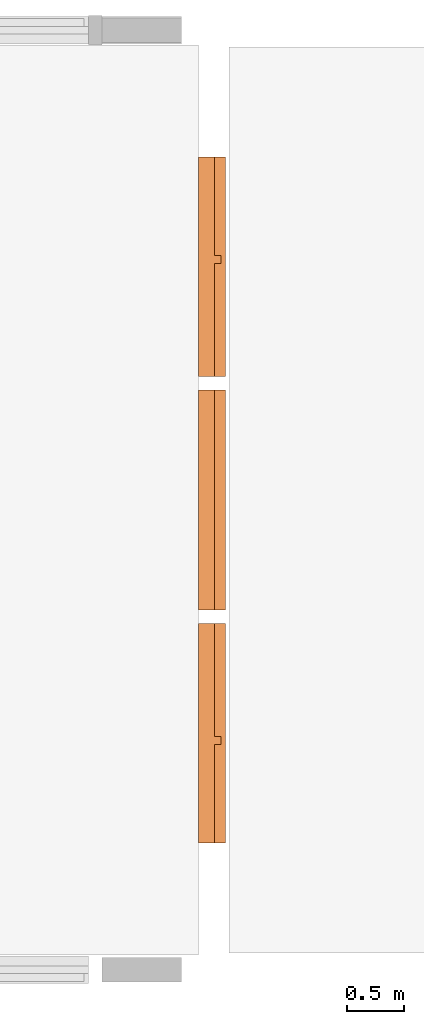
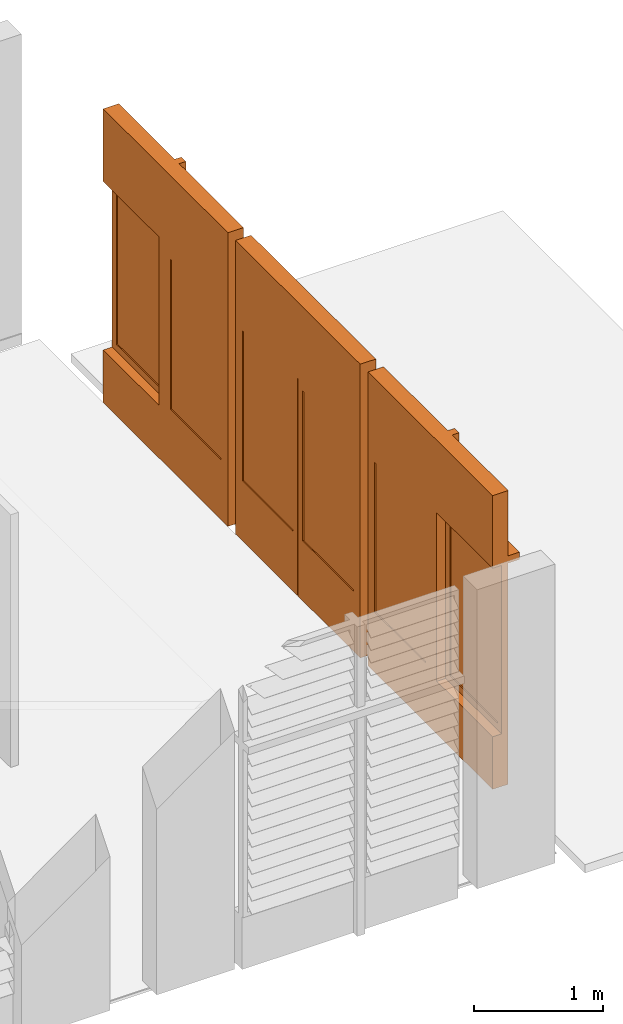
# One storey, part 15 of 15: 3 proxies.
"""IFC2X3 building model written with IfcOpenShell, lengths in metres."""

import ifcopenshell
import ifcopenshell.guid

model = None  # the IFC model being written
_history = None  # IfcOwnerHistory: only IFC2X3 demands one
_inside = {}  # id of a spatial element -> (the spatial element, [elements in it])
_under = {}  # id of a project, library or spatial element -> (it, [spatial elements below it])
_declared = {}  # id of a project -> (the project, [libraries it declares])
_typed = {}  # id of a type object -> (the type object, [elements of that type])
_made_of = {}  # id of a material, layer set ... -> (it, [elements and type objects made of it])


def new_model(schema):
    """Start an empty IFC model of exactly this schema.

    Asked for "IFC4X3", IfcOpenShell would pick the latest addendum, in which some entities
    have other attributes; the version numbers below select the first issue.
    IFC2X3 requires an IfcOwnerHistory on every rooted entity: one is made here for all.
    """
    global model, _history
    if schema == "IFC4X3":
        model = ifcopenshell.file(schema_version=(4, 3, 0, 0))
    else:
        model = ifcopenshell.file(schema=schema)
    _inside.clear()
    _under.clear()
    _declared.clear()
    _typed.clear()
    _made_of.clear()
    _history = None
    if model.schema == "IFC2X3":
        org = make("IfcOrganization", Name="unknown")
        user = make(
            "IfcPersonAndOrganization",
            ThePerson=make("IfcPerson", FamilyName="unknown"),
            TheOrganization=org,
        )
        app = make(
            "IfcApplication",
            ApplicationDeveloper=org,
            Version="unknown",
            ApplicationFullName="unknown",
            ApplicationIdentifier="unknown",
        )
        _history = make(
            "IfcOwnerHistory",
            OwningUser=user,
            OwningApplication=app,
            ChangeAction="ADDED",
            CreationDate=0,
        )
    return model


def make(cls, **values):
    """One entity of the class cls with the attributes given. An attribute that is None is left unset."""
    return model.create_entity(
        cls, **{name: value for name, value in values.items() if value is not None}
    )


def entity(cls, *values):
    """Any entity or typed value of the class cls, its attributes in the order of the schema. None: left unset."""
    e = model.create_entity(cls)
    for i, value in enumerate(values):
        if value is not None:
            e[i] = value
    return e


def rooted(cls, **values):
    """An entity with a GlobalId (a new one), such as an element, a storey or a relation."""
    return make(cls, GlobalId=ifcopenshell.guid.new(), OwnerHistory=_history, **values)


def si_unit(unit_type, name, prefix=None):
    """IfcSIUnit, for example si_unit("LENGTHUNIT", "METRE", prefix="MILLI")."""
    return make("IfcSIUnit", UnitType=unit_type, Prefix=prefix, Name=name)


def converted_unit(unit_type, name, factor, base, dimensions=None, offset=None):
    """IfcConversionBasedUnit, such as the inch: factor (a typed value) times the base unit."""
    return make(
        "IfcConversionBasedUnit"
        if offset is None
        else "IfcConversionBasedUnitWithOffset",
        ConversionOffset=offset,
        Dimensions=None
        if dimensions is None
        else entity("IfcDimensionalExponents", *dimensions),
        UnitType=unit_type,
        Name=name,
        ConversionFactor=make(
            "IfcMeasureWithUnit", ValueComponent=factor, UnitComponent=base
        ),
    )


def derived_unit(unit_type, elements):
    """IfcDerivedUnit: a product of units, each with its exponent."""
    return make(
        "IfcDerivedUnit",
        Elements=[
            make("IfcDerivedUnitElement", Unit=unit, Exponent=power)
            for unit, power in elements
        ],
        UnitType=unit_type,
    )


def assignment(units):
    """IfcUnitAssignment: the units of a project."""
    return None if units is None else make("IfcUnitAssignment", Units=units)


def point(xyz):
    """IfcCartesianPoint."""
    return None if xyz is None else make("IfcCartesianPoint", Coordinates=xyz)


def direction(xyz):
    """IfcDirection."""
    return None if xyz is None else make("IfcDirection", DirectionRatios=xyz)


def frame(location, z_axis=None, x_axis=None):
    """IfcAxis2Placement3D, a coordinate frame: its origin and axes. An axis left out is left unset."""
    return make(
        "IfcAxis2Placement3D",
        Location=point(location),
        Axis=direction(z_axis),
        RefDirection=direction(x_axis),
    )


def origin():
    """The frame at (0, 0, 0) with its axes left unset."""
    return frame((0.0, 0.0, 0.0))


def place(relative_to, where):
    """IfcLocalPlacement: puts the frame where relative to a parent placement (None: the world)."""
    return make(
        "IfcLocalPlacement", PlacementRelTo=relative_to, RelativePlacement=where
    )


def context(
    kind, dimensions, precision=None, world=None, true_north=None, identifier=None
):
    """IfcGeometricRepresentationContext, for example the 3D "Model" context."""
    return make(
        "IfcGeometricRepresentationContext",
        ContextIdentifier=identifier,
        ContextType=kind,
        CoordinateSpaceDimension=dimensions,
        Precision=precision,
        WorldCoordinateSystem=world,
        TrueNorth=true_north,
    )


def subcontext(parent, identifier, kind, view, scale=None):
    """IfcGeometricRepresentationSubContext, for example "Body" below "Model"."""
    return make(
        "IfcGeometricRepresentationSubContext",
        ContextIdentifier=identifier,
        ContextType=kind,
        ParentContext=parent,
        TargetScale=scale,
        TargetView=view,
    )


def project(units=None, contexts=None):
    """IfcProject with its units and contexts."""
    return rooted(
        "IfcProject",
        Name="project",
        RepresentationContexts=contexts,
        UnitsInContext=assignment(units),
    )


def spatial(cls, under=None, at=None, **own):
    """A site, building, storey or space (cls), placed at a placement, below another one or the project."""
    s = rooted(cls, ObjectPlacement=at, **own)
    if under is not None:
        _under.setdefault(under.id(), (under, []))[1].append(s)
    return s


def faces_of(points, faces, orient=None, outer=None):
    """IfcFace entities. A face is a list of loops; a loop is a list of indices into points, from 0.

    orient and outer hold one flag for each loop. By default every Orientation is true, the
    first loop of a face is its IfcFaceOuterBound and the others are IfcFaceBound.
    """
    made = []
    for i, loops in enumerate(faces):
        bounds = []
        for j, loop in enumerate(loops):
            is_outer = j == 0 if outer is None else outer[i][j]
            bounds.append(
                make(
                    "IfcFaceOuterBound" if is_outer else "IfcFaceBound",
                    Bound=make("IfcPolyLoop", Polygon=[points[k] for k in loop]),
                    Orientation=True if orient is None else orient[i][j],
                )
            )
        made.append(make("IfcFace", Bounds=bounds))
    return made


def faceted_brep(points, faces, orient=None, outer=None, voids=None):
    """IfcFacetedBrep: a solid bounded by flat faces; with voids (closed shells), ...WithVoids."""
    shared = [point(p) for p in points]
    hull = make("IfcClosedShell", CfsFaces=faces_of(shared, faces, orient, outer))
    if voids is None:
        return make("IfcFacetedBrep", Outer=hull)
    return make(
        "IfcFacetedBrepWithVoids",
        Outer=hull,
        Voids=[
            make(cls, CfsFaces=faces_of(shared, fs, o, b)) for cls, fs, o, b in voids
        ],
    )


def shape(context_of_items, identifier, shape_type, items):
    """IfcShapeRepresentation: the items that make up one representation, for example the "Body"."""
    return make(
        "IfcShapeRepresentation",
        ContextOfItems=context_of_items,
        RepresentationIdentifier=identifier,
        RepresentationType=shape_type,
        Items=items,
    )


def source(mapping_origin, context_of_items, identifier, shape_type, items):
    """IfcRepresentationMap: a shape defined once, which mapped items show again and again."""
    return make(
        "IfcRepresentationMap",
        MappingOrigin=mapping_origin,
        MappedRepresentation=shape(context_of_items, identifier, shape_type, items),
    )


def transform(
    local_origin,
    x_axis=None,
    y_axis=None,
    z_axis=None,
    scale=None,
    scale2=None,
    scale3=None,
    uniform=True,
):
    """IfcCartesianTransformationOperator3D, or its non-uniform kind. x_axis, y_axis, z_axis: its Axis1, 2, 3."""
    if uniform:
        return make(
            "IfcCartesianTransformationOperator3D",
            Axis1=direction(x_axis),
            Axis2=direction(y_axis),
            LocalOrigin=point(local_origin),
            Scale=scale,
            Axis3=direction(z_axis),
        )
    return make(
        "IfcCartesianTransformationOperator3DnonUniform",
        Axis1=direction(x_axis),
        Axis2=direction(y_axis),
        LocalOrigin=point(local_origin),
        Scale=scale,
        Axis3=direction(z_axis),
        Scale2=scale2,
        Scale3=scale3,
    )


def mapped(mapping_source, mapping_target):
    """IfcMappedItem: shows the shape of a source again, moved by a transform."""
    return make(
        "IfcMappedItem", MappingSource=mapping_source, MappingTarget=mapping_target
    )


def material(Name=None, Category=None):
    """IfcMaterial."""
    return make("IfcMaterial", Name=Name, Category=Category)


def material_list(materials):
    """IfcMaterialList."""
    return make("IfcMaterialList", Materials=materials)


def made_of(thing, what):
    """Note that an element or type object is made of a material, layer set ...; save() writes the relation."""
    if what is not None:
        _made_of.setdefault(what.id(), (what, []))[1].append(thing)
    return thing


def type_object(cls, material=None, **own):
    """A type object (cls), such as IfcWallType, which elements share."""
    return made_of(rooted(cls, **own), material)


def type_shapes(of_type, sources):
    """Give a type object the sources (RepresentationMaps) that its elements show as mapped items."""
    of_type.RepresentationMaps = sources


def element(
    cls,
    number,
    at=None,
    inside=None,
    cuts=None,
    type_object=None,
    material=None,
    context=None,
    identifier="Body",
    shape_type=None,
    held_by="IfcProductDefinitionShape",
    body=None,
    shapes=None,
    **own,
):
    """One element of the class cls, such as IfcWall. Its Tag is "e" and its number.

    at: its placement. inside: the storey or other place that contains it. cuts: it is an
    opening in that element (IfcRelVoidsElement). A single representation is given by context,
    identifier, shape_type and body (its items); several are given by shapes. held_by: the class
    of the entity that holds the representations. save() writes the other relations.
    """
    e = rooted(cls, Tag="e%d" % number, ObjectPlacement=at, **own)
    if body is not None:
        shapes = [shape(context, identifier, shape_type, body)]
    if shapes is not None:
        e.Representation = make(held_by, Representations=shapes)
    if inside is not None:
        _inside.setdefault(inside.id(), (inside, []))[1].append(e)
    if cuts is not None:
        rooted(
            "IfcRelVoidsElement", RelatingBuildingElement=cuts, RelatedOpeningElement=e
        )
    if type_object is not None:
        _typed.setdefault(type_object.id(), (type_object, []))[1].append(e)
    return made_of(e, material)


def aggregate(whole, parts):
    """IfcRelAggregates: a whole, such as a stair, and the parts it consists of."""
    return rooted("IfcRelAggregates", RelatingObject=whole, RelatedObjects=parts)


def save(model, path):
    """Write the relations noted so far, then the file.

    IfcRelAggregates (storeys below a building ...), IfcRelContainedInSpatialStructure (elements
    in a storey), IfcRelDefinesByType, IfcRelAssociatesMaterial and IfcRelDeclares: one each for
    every whole, place, type object, material and project.
    """
    for whole, parts in _under.values():
        aggregate(whole, parts)
    for where, things in _inside.values():
        rooted(
            "IfcRelContainedInSpatialStructure",
            RelatedElements=things,
            RelatingStructure=where,
        )
    for kind, things in _typed.values():
        rooted("IfcRelDefinesByType", RelatedObjects=things, RelatingType=kind)
    for what, things in _made_of.values():
        rooted("IfcRelAssociatesMaterial", RelatedObjects=things, RelatingMaterial=what)
    for by, libraries in _declared.values():
        rooted("IfcRelDeclares", RelatingContext=by, RelatedDefinitions=libraries)
    model.write(path)


model = new_model("IFC2X3")

# Units and contexts
model_context = context("Model", 3, precision=1e-05, world=origin(), true_north=direction((6.12303176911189e-17, 1.0)))
body_context = subcontext(model_context, "Body", "Model", "MODEL_VIEW")
ifc_project = project(units=[si_unit("LENGTHUNIT", "METRE"), si_unit("AREAUNIT", "SQUARE_METRE"), si_unit("VOLUMEUNIT", "CUBIC_METRE"), converted_unit("PLANEANGLEUNIT", "DEGREE", entity("IfcRatioMeasure", 0.0174532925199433), si_unit("PLANEANGLEUNIT", "RADIAN"), dimensions=[0, 0, 0, 0, 0, 0, 0]), si_unit("MASSUNIT", "GRAM", prefix="KILO"), derived_unit("MASSDENSITYUNIT", [(si_unit("MASSUNIT", "GRAM", prefix="KILO"), 1), (si_unit("LENGTHUNIT", "METRE"), -3)]), si_unit("TIMEUNIT", "SECOND"), si_unit("FREQUENCYUNIT", "HERTZ"), si_unit("THERMODYNAMICTEMPERATUREUNIT", "DEGREE_CELSIUS"), derived_unit("THERMALTRANSMITTANCEUNIT", [(si_unit("MASSUNIT", "GRAM", prefix="KILO"), 1), (si_unit("THERMODYNAMICTEMPERATUREUNIT", "KELVIN"), -1), (si_unit("TIMEUNIT", "SECOND"), -3)]), derived_unit("VOLUMETRICFLOWRATEUNIT", [(si_unit("LENGTHUNIT", "METRE"), 3), (si_unit("TIMEUNIT", "SECOND"), -1)]), si_unit("ELECTRICCURRENTUNIT", "AMPERE"), si_unit("ELECTRICVOLTAGEUNIT", "VOLT"), si_unit("POWERUNIT", "WATT"), si_unit("FORCEUNIT", "NEWTON", prefix="KILO"), si_unit("ILLUMINANCEUNIT", "LUX"), si_unit("LUMINOUSFLUXUNIT", "LUMEN"), si_unit("LUMINOUSINTENSITYUNIT", "CANDELA"), derived_unit("USERDEFINED", [(si_unit("MASSUNIT", "GRAM", prefix="KILO"), -1), (si_unit("LENGTHUNIT", "METRE"), -2), (si_unit("TIMEUNIT", "SECOND"), 3), (si_unit("LUMINOUSFLUXUNIT", "LUMEN"), 1)]), derived_unit("LINEARVELOCITYUNIT", [(si_unit("LENGTHUNIT", "METRE"), 1), (si_unit("TIMEUNIT", "SECOND"), -1)]), si_unit("PRESSUREUNIT", "PASCAL"), derived_unit("USERDEFINED", [(si_unit("LENGTHUNIT", "METRE"), -2), (si_unit("MASSUNIT", "GRAM", prefix="KILO"), 1), (si_unit("TIMEUNIT", "SECOND"), -2)])], contexts=[model_context])

# Site, building, storey
site_placement = place(None, origin())
site = spatial("IfcSite", under=ifc_project, at=site_placement, Name="Surface", CompositionType="ELEMENT")
building_placement = place(site_placement, origin())
building = spatial("IfcBuilding", under=site, at=building_placement, Name="ExPREF", CompositionType="ELEMENT")
storey_placement = place(building_placement, frame((0.0, 0.0, 7.83)))
storey = spatial("IfcBuildingStorey", under=building, at=storey_placement, Name="R+2", CompositionType="ELEMENT", Elevation=7.83)

# Proxies
ifc_material_1 = material(Name="AA-vitrage")
ifc_material_2 = material(Name="AA-bois menuiseries")
ifc_material_list_1 = material_list([ifc_material_1, ifc_material_2])
ifc_material_list_2 = material_list([ifc_material_1, ifc_material_2])
building_element_proxy_type_1 = type_object("IfcBuildingElementProxyType", Name="R+2 porte + fenetre préfet symétrie", PredefinedType="NOTDEFINED", material=ifc_material_list_2)
shared_shape_1 = source(origin(), body_context, "Body", "Brep", [
    faceted_brep([(0.0750000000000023, -0.0299999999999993, 1.995), (0.0750000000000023, -0.0299999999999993, 0.569999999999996), (0.864999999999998, -0.0299999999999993, 0.569999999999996), (0.864999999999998, -0.0299999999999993, 1.995), (0.0750000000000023, -0.0100000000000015, 1.995), (0.864999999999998, -0.0100000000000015, 1.995), (0.864999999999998, -0.0100000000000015, 0.569999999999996), (0.0750000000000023, -0.0100000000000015, 0.569999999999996)], [[[0, 1, 2, 3]], [[4, 5, 6, 7]], [[0, 3, 5, 4]], [[3, 2, 6, 5]], [[2, 1, 7, 6]], [[1, 0, 4, 7]]]),
    faceted_brep([(0.00500000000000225, -0.0400000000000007, 2.065), (0.00500000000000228, -0.0400000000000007, 0.0), (0.934999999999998, -0.0400000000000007, 0.0), (0.934999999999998, -0.0400000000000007, 2.065), (0.864999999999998, -0.0400000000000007, 0.569999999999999), (0.0750000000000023, -0.0400000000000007, 0.569999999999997), (0.0750000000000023, -0.0400000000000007, 1.995), (0.864999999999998, -0.0400000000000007, 1.995), (0.00500000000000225, 0.0, 2.065), (0.934999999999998, 0.0, 2.065), (0.934999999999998, 0.0, 0.0), (0.00500000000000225, 0.0, 0.0), (0.864999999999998, 0.0, 0.569999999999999), (0.864999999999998, 0.0, 1.995), (0.0750000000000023, 0.0, 1.995), (0.0750000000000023, 0.0, 0.569999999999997)], [[[0, 1, 2, 3], [4, 5, 6, 7]], [[8, 9, 10, 11], [12, 13, 14, 15]], [[0, 3, 9, 8]], [[3, 2, 10, 9]], [[2, 1, 11, 10]], [[1, 0, 8, 11]], [[4, 7, 13, 12]], [[7, 6, 14, 13]], [[6, 5, 15, 14]], [[5, 4, 12, 15]]]),
    faceted_brep([(-0.0299999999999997, -0.140000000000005, 2.17), (0.97, -0.140000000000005, 2.17), (0.97, -0.140000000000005, 2.79000000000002), (-0.0299999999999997, -0.140000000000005, 2.79000000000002), (-0.0299999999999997, 0.0, 2.17), (-0.0299999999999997, 0.0, 2.79000000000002), (0.97, 0.0, 2.79000000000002), (0.97, 0.0, 2.17)], [[[0, 1, 2, 3]], [[4, 5, 6, 7]], [[0, 3, 5, 4]], [[3, 2, 6, 5]], [[2, 1, 7, 6]], [[1, 0, 4, 7]]]),
    faceted_brep([(-0.970000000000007, -0.140000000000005, 2.16999999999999), (-0.1, -0.140000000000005, 2.16999999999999), (-0.1, -0.140000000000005, 2.79000000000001), (-0.970000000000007, -0.140000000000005, 2.79000000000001), (-0.970000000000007, 0.0, 2.16999999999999), (-0.970000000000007, 0.0, 2.79000000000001), (-0.1, 0.0, 2.79000000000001), (-0.1, 0.0, 2.16999999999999)], [[[0, 1, 2, 3]], [[4, 5, 6, 7]], [[0, 3, 5, 4]], [[3, 2, 6, 5]], [[2, 1, 7, 6]], [[1, 0, 4, 7]]]),
    faceted_brep([(-0.904999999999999, -0.0900000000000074, 2.03499999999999), (-0.164999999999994, -0.0900000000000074, 2.03499999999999), (-0.164999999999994, -0.0900000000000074, 0.564999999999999), (-0.904999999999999, -0.0900000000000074, 0.564999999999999), (-0.904999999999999, -0.110000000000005, 2.03499999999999), (-0.904999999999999, -0.110000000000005, 0.564999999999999), (-0.164999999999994, -0.110000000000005, 0.564999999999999), (-0.164999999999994, -0.110000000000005, 2.03499999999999)], [[[0, 1, 2, 3]], [[4, 5, 6, 7]], [[1, 0, 4, 7]], [[2, 1, 7, 6]], [[3, 2, 6, 5]], [[0, 3, 5, 4]]]),
    faceted_brep([(-0.934999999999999, -0.120000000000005, 2.065), (-0.934999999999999, -0.0800000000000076, 2.065), (-0.934999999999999, -0.0800000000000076, 0.534999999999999), (-0.934999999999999, -0.120000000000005, 0.534999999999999), (-0.904999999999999, -0.0800000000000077, 2.03499999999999), (-0.904999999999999, -0.120000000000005, 2.035), (-0.904999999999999, -0.120000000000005, 0.564999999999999), (-0.904999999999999, -0.0800000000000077, 0.564999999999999), (-0.134999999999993, -0.0800000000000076, 0.534999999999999), (-0.134999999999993, -0.120000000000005, 0.534999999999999), (-0.164999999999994, -0.120000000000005, 0.564999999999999), (-0.164999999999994, -0.0800000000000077, 0.564999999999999), (-0.134999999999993, -0.0800000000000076, 2.065), (-0.134999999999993, -0.120000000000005, 2.065), (-0.164999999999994, -0.120000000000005, 2.035), (-0.164999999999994, -0.0800000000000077, 2.03499999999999)], [[[0, 1, 2, 3]], [[4, 5, 6, 7]], [[3, 2, 8, 9]], [[7, 6, 10, 11]], [[9, 8, 12, 13]], [[11, 10, 14, 15]], [[3, 9, 13, 0], [5, 14, 10, 6]], [[13, 12, 1, 0]], [[7, 11, 15, 4], [1, 12, 8, 2]], [[15, 14, 5, 4]]], outer=[[True], [True], [True], [True], [True], [True], [True, False], [True], [False, True], [True]]),
    faceted_brep([(-0.969999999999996, -0.0800000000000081, 0.500000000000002), (-0.969999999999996, -0.140000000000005, 0.500000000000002), (-0.969999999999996, -0.140000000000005, 2.09999999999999), (-0.969999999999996, -0.0800000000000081, 2.09999999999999), (-0.919999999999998, -0.140000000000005, 0.549999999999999), (-0.919999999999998, -0.120000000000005, 0.549999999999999), (-0.919999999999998, -0.120000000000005, 2.05), (-0.919999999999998, -0.140000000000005, 2.04999999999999), (-0.934999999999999, -0.120000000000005, 0.534999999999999), (-0.934999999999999, -0.0800000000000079, 0.534999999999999), (-0.934999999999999, -0.0800000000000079, 2.065), (-0.934999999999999, -0.120000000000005, 2.065), (-0.099999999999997, -0.140000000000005, 2.09999999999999), (-0.0999999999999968, -0.0800000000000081, 2.09999999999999), (-0.149999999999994, -0.120000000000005, 2.05), (-0.149999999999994, -0.140000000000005, 2.04999999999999), (-0.134999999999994, -0.0800000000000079, 2.065), (-0.134999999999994, -0.120000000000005, 2.065), (-0.0999999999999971, -0.140000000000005, 0.500000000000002), (-0.0999999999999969, -0.0800000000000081, 0.500000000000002), (-0.149999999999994, -0.120000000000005, 0.549999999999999), (-0.149999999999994, -0.140000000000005, 0.549999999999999), (-0.134999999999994, -0.0800000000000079, 0.534999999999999), (-0.134999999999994, -0.120000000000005, 0.534999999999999)], [[[0, 1, 2, 3]], [[4, 5, 6, 7]], [[8, 9, 10, 11]], [[3, 2, 12, 13]], [[7, 6, 14, 15]], [[11, 10, 16, 17]], [[13, 12, 18, 19]], [[15, 14, 20, 21]], [[17, 16, 22, 23]], [[3, 13, 19, 0], [9, 22, 16, 10]], [[19, 18, 1, 0]], [[7, 15, 21, 4], [1, 18, 12, 2]], [[21, 20, 5, 4]], [[11, 17, 23, 8], [5, 20, 14, 6]], [[23, 22, 9, 8]]], outer=[[True], [True], [True], [True], [True], [True], [True], [True], [True], [True, False], [True], [False, True], [True], [True, False], [True]]),
    faceted_brep([(-0.0999999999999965, -0.2, 2.79000000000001), (-0.0999999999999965, -0.2, 2.17), (-0.0299999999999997, -0.2, 2.17), (-0.0299999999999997, -0.2, 2.79000000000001), (-0.0299999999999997, 0.0, 2.79000000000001), (-0.0999999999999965, 0.0, 2.79000000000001), (-0.0999999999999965, 0.0, 2.17), (-0.0299999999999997, 0.0, 2.17)], [[[0, 1, 2, 3]], [[0, 3, 4, 5]], [[1, 0, 5, 6]], [[3, 2, 7, 4]], [[2, 1, 6, 7]], [[5, 4, 7, 6]]]),
    faceted_brep([(-0.0299999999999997, 0.0, 2.1), (-0.0299999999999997, 0.0, 0.0), (-0.0999999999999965, 0.0, 0.0), (-0.0999999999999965, 0.0, 2.1), (-0.0299999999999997, -0.2, 2.1), (-0.0299999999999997, -0.2, 0.0), (-0.0999999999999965, -0.2, 0.0), (-0.0999999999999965, -0.2, 2.1)], [[[0, 1, 2, 3]], [[4, 5, 1, 0]], [[5, 6, 2, 1]], [[6, 7, 3, 2]], [[7, 4, 0, 3]], [[4, 7, 6, 5]]]),
    faceted_brep([(0.970000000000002, -0.14, 0.0), (0.920000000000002, -0.14, 0.0), (0.920000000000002, -0.0400000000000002, 0.0), (0.935000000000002, -0.0400000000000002, 0.0), (0.935000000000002, 0.0, 0.0), (0.970000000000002, 0.0, 0.0), (0.969999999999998, 0.0, 2.1), (0.969999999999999, -0.14, 2.1), (0.934999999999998, 0.0, 2.065), (0.004999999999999, 0.0, 2.065), (0.00500000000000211, 0.0, 0.0), (-0.0299999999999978, 0.0, 0.0), (-0.0300000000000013, 0.0, 2.1), (0.934999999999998, -0.0400000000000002, 2.065), (-0.0300000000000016, -0.140000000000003, 2.1), (-0.0299999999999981, -0.140000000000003, 0.0), (0.0200000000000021, -0.140000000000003, 0.0), (0.0199999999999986, -0.14, 2.05), (0.919999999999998, -0.14, 2.05), (0.004999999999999, -0.0400000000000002, 2.065), (0.00500000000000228, -0.0400000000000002, 0.0), (0.0200000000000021, -0.0400000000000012, 0.0), (0.919999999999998, -0.0400000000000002, 2.05), (0.0199999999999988, -0.0400000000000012, 2.05)], [[[0, 1, 2, 3, 4, 5]], [[0, 5, 6, 7]], [[5, 4, 8, 9, 10, 11, 12, 6]], [[4, 3, 13, 8]], [[1, 0, 7, 14, 15, 16, 17, 18]], [[7, 6, 12, 14]], [[8, 13, 19, 9]], [[15, 11, 10, 20, 21, 16]], [[3, 2, 22, 23, 21, 20, 19, 13]], [[2, 1, 18, 22]], [[22, 18, 17, 23]], [[14, 12, 11, 15]], [[9, 19, 20, 10]], [[23, 17, 16, 21]]]),
    faceted_brep([(-0.970000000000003, -0.140000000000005, 0.0), (-0.0999999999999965, -0.140000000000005, 0.0), (-0.0999999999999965, -0.140000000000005, 0.500000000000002), (-0.970000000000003, -0.140000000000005, 0.500000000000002), (-0.970000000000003, 0.0, 0.0), (-0.970000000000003, 0.0, 0.500000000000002), (-0.0999999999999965, 0.0, 0.500000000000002), (-0.0999999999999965, 0.0, 0.0)], [[[0, 1, 2, 3]], [[4, 5, 6, 7]], [[0, 3, 5, 4]], [[3, 2, 6, 5]], [[2, 1, 7, 6]], [[1, 0, 4, 7]]]),
    faceted_brep([(-0.97, -0.24, 2.09999999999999), (0.97, -0.24, 2.1), (0.97, -0.24, 2.17), (-0.970000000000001, -0.24, 2.16999999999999), (-0.97, 0.0, 2.09999999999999), (-0.97, 0.0, 2.16999999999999), (0.97, 0.0, 2.17), (0.97, 0.0, 2.1)], [[[0, 1, 2, 3]], [[4, 5, 6, 7]], [[0, 3, 5, 4]], [[2, 1, 7, 6]], [[1, 0, 4, 7]], [[3, 2, 6, 5]]]),
])
type_shapes(building_element_proxy_type_1, [shared_shape_1])
proxy_1_placement = place(storey_placement, frame((65.429743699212, -191.268069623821, 0.0), z_axis=(0.0, 0.0, 1.0), x_axis=(0.0, 1.0, 0.0)))
element("IfcBuildingElementProxy", 1, at=proxy_1_placement, inside=storey, type_object=building_element_proxy_type_1, material=ifc_material_list_1, Name="R+2 porte + fenetre préfet symétrie:R+2 porte + fenetre préfet symétrie", ObjectType="R+2 porte + fenetre préfet symétrie", context=body_context, shape_type="MappedRepresentation", body=[
    mapped(shared_shape_1, transform((0.0, 0.0, 0.0), scale=1.0)),
])
ifc_material_list_3 = material_list([ifc_material_1, ifc_material_2])
ifc_material_list_4 = material_list([ifc_material_1, ifc_material_2])
building_element_proxy_type_2 = type_object("IfcBuildingElementProxyType", Name="R+2 porte + fenetre préfet", PredefinedType="NOTDEFINED", material=ifc_material_list_4)
shared_shape_2 = source(origin(), body_context, "Body", "Brep", [
    faceted_brep([(-0.0750000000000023, -0.0299999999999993, 1.995), (-0.864999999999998, -0.0299999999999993, 1.995), (-0.864999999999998, -0.0299999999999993, 0.569999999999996), (-0.0750000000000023, -0.0299999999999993, 0.569999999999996), (-0.0750000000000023, -0.0100000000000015, 1.995), (-0.0750000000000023, -0.0100000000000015, 0.569999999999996), (-0.864999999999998, -0.0100000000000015, 0.569999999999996), (-0.864999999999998, -0.0100000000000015, 1.995)], [[[0, 1, 2, 3]], [[4, 5, 6, 7]], [[1, 0, 4, 7]], [[2, 1, 7, 6]], [[3, 2, 6, 5]], [[0, 3, 5, 4]]]),
    faceted_brep([(-0.00500000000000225, -0.0400000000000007, 2.065), (-0.934999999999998, -0.0400000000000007, 2.065), (-0.934999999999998, -0.0400000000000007, 0.0), (-0.00500000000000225, -0.0400000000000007, 0.0), (-0.864999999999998, -0.0400000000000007, 0.569999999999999), (-0.864999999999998, -0.0400000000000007, 1.995), (-0.0750000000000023, -0.0400000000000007, 1.995), (-0.0750000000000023, -0.0400000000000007, 0.569999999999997), (-0.00500000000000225, 0.0, 2.065), (-0.00500000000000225, 0.0, 0.0), (-0.934999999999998, 0.0, 0.0), (-0.934999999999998, 0.0, 2.065), (-0.864999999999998, 0.0, 0.569999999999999), (-0.0750000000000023, 0.0, 0.569999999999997), (-0.0750000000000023, 0.0, 1.995), (-0.864999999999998, 0.0, 1.995)], [[[0, 1, 2, 3], [4, 5, 6, 7]], [[8, 9, 10, 11], [12, 13, 14, 15]], [[1, 0, 8, 11]], [[2, 1, 11, 10]], [[3, 2, 10, 9]], [[0, 3, 9, 8]], [[5, 4, 12, 15]], [[6, 5, 15, 14]], [[7, 6, 14, 13]], [[4, 7, 13, 12]]]),
    faceted_brep([(0.0299999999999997, -0.140000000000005, 2.17), (0.0299999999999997, -0.140000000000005, 2.79000000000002), (-0.97, -0.140000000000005, 2.79000000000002), (-0.97, -0.140000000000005, 2.17), (0.0299999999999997, 0.0, 2.17), (-0.97, 0.0, 2.17), (-0.97, 0.0, 2.79000000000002), (0.0299999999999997, 0.0, 2.79000000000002)], [[[0, 1, 2, 3]], [[4, 5, 6, 7]], [[1, 0, 4, 7]], [[2, 1, 7, 6]], [[3, 2, 6, 5]], [[0, 3, 5, 4]]]),
    faceted_brep([(0.970000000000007, -0.140000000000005, 2.16999999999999), (0.970000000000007, -0.140000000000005, 2.79000000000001), (0.1, -0.140000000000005, 2.79000000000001), (0.1, -0.140000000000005, 2.16999999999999), (0.970000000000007, 0.0, 2.16999999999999), (0.1, 0.0, 2.16999999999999), (0.1, 0.0, 2.79000000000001), (0.970000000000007, 0.0, 2.79000000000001)], [[[0, 1, 2, 3]], [[4, 5, 6, 7]], [[1, 0, 4, 7]], [[2, 1, 7, 6]], [[3, 2, 6, 5]], [[0, 3, 5, 4]]]),
    faceted_brep([(0.904999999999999, -0.0900000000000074, 2.03499999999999), (0.904999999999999, -0.0900000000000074, 0.564999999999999), (0.164999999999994, -0.0900000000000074, 0.564999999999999), (0.164999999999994, -0.0900000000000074, 2.03499999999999), (0.904999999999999, -0.110000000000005, 2.03499999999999), (0.164999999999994, -0.110000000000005, 2.03499999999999), (0.164999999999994, -0.110000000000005, 0.564999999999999), (0.904999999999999, -0.110000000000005, 0.564999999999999)], [[[0, 1, 2, 3]], [[4, 5, 6, 7]], [[0, 3, 5, 4]], [[3, 2, 6, 5]], [[2, 1, 7, 6]], [[1, 0, 4, 7]]]),
    faceted_brep([(0.934999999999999, -0.0800000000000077, 2.065), (0.934999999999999, -0.120000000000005, 2.065), (0.934999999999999, -0.120000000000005, 0.534999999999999), (0.934999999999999, -0.0800000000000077, 0.534999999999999), (0.904999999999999, -0.120000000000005, 2.03499999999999), (0.904999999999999, -0.0800000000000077, 2.03499999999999), (0.904999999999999, -0.0800000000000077, 0.564999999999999), (0.904999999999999, -0.120000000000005, 0.564999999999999), (0.134999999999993, -0.120000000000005, 0.534999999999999), (0.134999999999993, -0.0800000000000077, 0.534999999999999), (0.164999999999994, -0.0800000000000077, 0.564999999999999), (0.164999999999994, -0.120000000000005, 0.564999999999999), (0.134999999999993, -0.120000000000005, 2.065), (0.134999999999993, -0.0800000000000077, 2.065), (0.164999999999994, -0.0800000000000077, 2.03499999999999), (0.164999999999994, -0.120000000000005, 2.03499999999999)], [[[0, 1, 2, 3]], [[4, 5, 6, 7]], [[3, 2, 8, 9]], [[7, 6, 10, 11]], [[9, 8, 12, 13]], [[11, 10, 14, 15]], [[7, 11, 15, 4], [1, 12, 8, 2]], [[13, 12, 1, 0]], [[3, 9, 13, 0], [5, 14, 10, 6]], [[15, 14, 5, 4]]], outer=[[True], [True], [True], [True], [True], [True], [False, True], [True], [True, False], [True]]),
    faceted_brep([(0.969999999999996, -0.140000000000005, 0.500000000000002), (0.969999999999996, -0.080000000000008, 0.500000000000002), (0.969999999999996, -0.080000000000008, 2.09999999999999), (0.969999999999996, -0.140000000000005, 2.09999999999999), (0.919999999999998, -0.120000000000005, 0.549999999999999), (0.919999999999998, -0.140000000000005, 0.549999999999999), (0.919999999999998, -0.140000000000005, 2.05), (0.919999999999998, -0.120000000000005, 2.05), (0.934999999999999, -0.0800000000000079, 0.534999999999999), (0.934999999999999, -0.120000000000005, 0.534999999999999), (0.934999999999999, -0.120000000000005, 2.065), (0.934999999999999, -0.0800000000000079, 2.065), (0.0999999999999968, -0.080000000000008, 2.09999999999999), (0.099999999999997, -0.140000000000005, 2.09999999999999), (0.149999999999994, -0.140000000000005, 2.04999999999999), (0.149999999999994, -0.120000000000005, 2.05), (0.134999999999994, -0.120000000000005, 2.065), (0.134999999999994, -0.0800000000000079, 2.065), (0.0999999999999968, -0.080000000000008, 0.500000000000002), (0.099999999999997, -0.140000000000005, 0.500000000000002), (0.149999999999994, -0.140000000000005, 0.549999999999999), (0.149999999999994, -0.120000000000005, 0.549999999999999), (0.134999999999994, -0.120000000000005, 0.534999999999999), (0.134999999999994, -0.0800000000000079, 0.534999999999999)], [[[0, 1, 2, 3]], [[4, 5, 6, 7]], [[8, 9, 10, 11]], [[3, 2, 12, 13]], [[7, 6, 14, 15]], [[11, 10, 16, 17]], [[13, 12, 18, 19]], [[15, 14, 20, 21]], [[17, 16, 22, 23]], [[11, 17, 23, 8], [1, 18, 12, 2]], [[19, 18, 1, 0]], [[3, 13, 19, 0], [5, 20, 14, 6]], [[21, 20, 5, 4]], [[7, 15, 21, 4], [9, 22, 16, 10]], [[23, 22, 9, 8]]], outer=[[True], [True], [True], [True], [True], [True], [True], [True], [True], [False, True], [True], [True, False], [True], [False, True], [True]]),
    faceted_brep([(0.0999999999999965, -0.2, 2.79000000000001), (0.0299999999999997, -0.2, 2.79000000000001), (0.0299999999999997, -0.2, 2.17), (0.0999999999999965, -0.2, 2.17), (0.0999999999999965, 0.0, 2.79000000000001), (0.0299999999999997, 0.0, 2.79000000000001), (0.0999999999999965, 0.0, 2.17), (0.0299999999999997, 0.0, 2.17)], [[[0, 1, 2, 3]], [[1, 0, 4, 5]], [[0, 3, 6, 4]], [[2, 1, 5, 7]], [[3, 2, 7, 6]], [[4, 6, 7, 5]]]),
    faceted_brep([(0.0299999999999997, 0.0, 2.1), (0.0999999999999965, 0.0, 2.1), (0.0999999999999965, 0.0, 0.0), (0.0299999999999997, 0.0, 0.0), (0.0299999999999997, -0.2, 0.0), (0.0299999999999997, -0.2, 2.1), (0.0999999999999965, -0.2, 0.0), (0.0999999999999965, -0.2, 2.1)], [[[0, 1, 2, 3]], [[4, 5, 0, 3]], [[6, 4, 3, 2]], [[7, 6, 2, 1]], [[5, 7, 1, 0]], [[5, 4, 6, 7]]]),
    faceted_brep([(-0.970000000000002, -0.14, 0.0), (-0.970000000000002, 0.0, 0.0), (-0.935000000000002, 0.0, 0.0), (-0.935000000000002, -0.0400000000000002, 0.0), (-0.920000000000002, -0.0400000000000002, 0.0), (-0.920000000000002, -0.14, 0.0), (-0.969999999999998, -0.14, 2.1), (-0.969999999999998, 0.0, 2.1), (0.0300000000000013, 0.0, 2.1), (0.0299999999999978, 0.0, 0.0), (-0.00500000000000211, 0.0, 0.0), (-0.00499999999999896, 0.0, 2.065), (-0.934999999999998, 0.0, 2.065), (-0.934999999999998, -0.0400000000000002, 2.065), (-0.919999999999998, -0.14, 2.05), (-0.0199999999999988, -0.140000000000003, 2.05), (-0.0200000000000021, -0.140000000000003, 0.0), (0.0299999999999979, -0.140000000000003, 0.0), (0.0300000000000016, -0.14, 2.1), (-0.004999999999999, -0.0400000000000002, 2.065), (-0.0200000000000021, -0.0400000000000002, 0.0), (-0.00500000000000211, -0.0400000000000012, 0.0), (-0.0199999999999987, -0.0400000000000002, 2.05), (-0.919999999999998, -0.0400000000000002, 2.05)], [[[0, 1, 2, 3, 4, 5]], [[1, 0, 6, 7]], [[2, 1, 7, 8, 9, 10, 11, 12]], [[3, 2, 12, 13]], [[0, 5, 14, 15, 16, 17, 18, 6]], [[7, 6, 18, 8]], [[13, 12, 11, 19]], [[17, 16, 20, 21, 10, 9]], [[4, 3, 13, 19, 21, 20, 22, 23]], [[5, 4, 23, 14]], [[14, 23, 22, 15]], [[8, 18, 17, 9]], [[19, 11, 10, 21]], [[15, 22, 20, 16]]]),
    faceted_brep([(0.970000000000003, -0.140000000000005, 0.0), (0.970000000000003, -0.140000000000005, 0.500000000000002), (0.0999999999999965, -0.140000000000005, 0.500000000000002), (0.0999999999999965, -0.140000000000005, 0.0), (0.970000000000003, 0.0, 0.0), (0.0999999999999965, 0.0, 0.0), (0.0999999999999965, 0.0, 0.500000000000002), (0.970000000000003, 0.0, 0.500000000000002)], [[[0, 1, 2, 3]], [[4, 5, 6, 7]], [[1, 0, 4, 7]], [[2, 1, 7, 6]], [[3, 2, 6, 5]], [[0, 3, 5, 4]]]),
    faceted_brep([(0.97, -0.24, 2.09999999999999), (0.97, -0.24, 2.16999999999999), (-0.970000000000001, -0.24, 2.17), (-0.97, -0.24, 2.1), (0.97, 0.0, 2.09999999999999), (-0.97, 0.0, 2.1), (-0.97, 0.0, 2.17), (0.970000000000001, 0.0, 2.16999999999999)], [[[0, 1, 2, 3]], [[4, 5, 6, 7]], [[1, 0, 4, 7]], [[3, 2, 6, 5]], [[0, 3, 5, 4]], [[2, 1, 7, 6]]]),
])
type_shapes(building_element_proxy_type_2, [shared_shape_2])
proxy_2_placement = place(storey_placement, frame((65.429743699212, -187.148069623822, 0.0), z_axis=(0.0, 0.0, 1.0), x_axis=(0.0, 1.0, 0.0)))
element("IfcBuildingElementProxy", 2, at=proxy_2_placement, inside=storey, type_object=building_element_proxy_type_2, material=ifc_material_list_3, Name="R+2 porte + fenetre préfet:R+2 porte + fenetre préfet", ObjectType="R+2 porte + fenetre préfet", context=body_context, shape_type="MappedRepresentation", body=[
    mapped(shared_shape_2, transform((0.0, 0.0, 0.0), scale=1.0)),
])
ifc_material_list_5 = material_list([ifc_material_1, ifc_material_2])
ifc_material_list_6 = material_list([ifc_material_1, ifc_material_2])
building_element_proxy_type_3 = type_object("IfcBuildingElementProxyType", Name="R+2 porte + porte préfet", PredefinedType="NOTDEFINED", material=ifc_material_list_6)
shared_shape_3 = source(origin(), body_context, "Body", "Brep", [
    faceted_brep([(-0.0750000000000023, -0.0299999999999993, 1.995), (-0.864999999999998, -0.0299999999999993, 1.995), (-0.864999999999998, -0.0299999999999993, 0.569999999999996), (-0.0750000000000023, -0.0299999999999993, 0.569999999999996), (-0.0750000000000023, -0.0100000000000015, 1.995), (-0.0750000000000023, -0.0100000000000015, 0.569999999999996), (-0.864999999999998, -0.0100000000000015, 0.569999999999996), (-0.864999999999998, -0.0100000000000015, 1.995)], [[[0, 1, 2, 3]], [[4, 5, 6, 7]], [[1, 0, 4, 7]], [[2, 1, 7, 6]], [[3, 2, 6, 5]], [[0, 3, 5, 4]]]),
    faceted_brep([(-0.00500000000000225, -0.0400000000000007, 2.065), (-0.934999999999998, -0.0400000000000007, 2.065), (-0.934999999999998, -0.0400000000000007, 0.0), (-0.00500000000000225, -0.0400000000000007, 0.0), (-0.864999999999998, -0.0400000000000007, 0.569999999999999), (-0.864999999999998, -0.0400000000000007, 1.995), (-0.0750000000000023, -0.0400000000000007, 1.995), (-0.0750000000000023, -0.0400000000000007, 0.569999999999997), (-0.00500000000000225, 0.0, 2.065), (-0.00500000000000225, 0.0, 0.0), (-0.934999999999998, 0.0, 0.0), (-0.934999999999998, 0.0, 2.065), (-0.864999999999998, 0.0, 0.569999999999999), (-0.0750000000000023, 0.0, 0.569999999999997), (-0.0750000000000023, 0.0, 1.995), (-0.864999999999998, 0.0, 1.995)], [[[0, 1, 2, 3], [4, 5, 6, 7]], [[8, 9, 10, 11], [12, 13, 14, 15]], [[1, 0, 8, 11]], [[2, 1, 11, 10]], [[3, 2, 10, 9]], [[0, 3, 9, 8]], [[5, 4, 12, 15]], [[6, 5, 15, 14]], [[7, 6, 14, 13]], [[4, 7, 13, 12]]]),
    faceted_brep([(0.0750000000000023, -0.0299999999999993, 1.995), (0.0750000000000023, -0.0299999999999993, 0.569999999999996), (0.864999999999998, -0.0299999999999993, 0.569999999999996), (0.864999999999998, -0.0299999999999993, 1.995), (0.0750000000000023, -0.0100000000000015, 1.995), (0.864999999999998, -0.0100000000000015, 1.995), (0.864999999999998, -0.0100000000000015, 0.569999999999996), (0.0750000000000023, -0.0100000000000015, 0.569999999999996)], [[[0, 1, 2, 3]], [[4, 5, 6, 7]], [[0, 3, 5, 4]], [[3, 2, 6, 5]], [[2, 1, 7, 6]], [[1, 0, 4, 7]]]),
    faceted_brep([(0.00500000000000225, -0.0400000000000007, 2.065), (0.00500000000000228, -0.0400000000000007, 0.0), (0.934999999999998, -0.0400000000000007, 0.0), (0.934999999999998, -0.0400000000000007, 2.065), (0.864999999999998, -0.0400000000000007, 0.569999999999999), (0.0750000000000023, -0.0400000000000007, 0.569999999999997), (0.0750000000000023, -0.0400000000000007, 1.995), (0.864999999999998, -0.0400000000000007, 1.995), (0.00500000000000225, 0.0, 2.065), (0.934999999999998, 0.0, 2.065), (0.934999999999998, 0.0, 0.0), (0.00500000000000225, 0.0, 0.0), (0.864999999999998, 0.0, 0.569999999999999), (0.864999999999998, 0.0, 1.995), (0.0750000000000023, 0.0, 1.995), (0.0750000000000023, 0.0, 0.569999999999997)], [[[0, 1, 2, 3], [4, 5, 6, 7]], [[8, 9, 10, 11], [12, 13, 14, 15]], [[0, 3, 9, 8]], [[3, 2, 10, 9]], [[2, 1, 11, 10]], [[1, 0, 8, 11]], [[4, 7, 13, 12]], [[7, 6, 14, 13]], [[6, 5, 15, 14]], [[5, 4, 12, 15]]]),
    faceted_brep([(-0.969999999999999, -0.140000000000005, 2.17), (0.97, -0.140000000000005, 2.17), (0.97, -0.140000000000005, 2.79000000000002), (-0.969999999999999, -0.140000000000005, 2.79000000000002), (-0.969999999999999, 0.0, 2.17), (-0.969999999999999, 0.0, 2.79000000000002), (0.97, 0.0, 2.79000000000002), (0.97, 0.0, 2.17)], [[[0, 1, 2, 3]], [[4, 5, 6, 7]], [[0, 3, 5, 4]], [[3, 2, 6, 5]], [[2, 1, 7, 6]], [[1, 0, 4, 7]]]),
    faceted_brep([(0.970000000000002, -0.14, 0.0), (0.920000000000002, -0.14, 0.0), (0.920000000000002, -0.0400000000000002, 0.0), (0.935000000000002, -0.0400000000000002, 0.0), (0.935000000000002, 0.0, 0.0), (0.970000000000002, 0.0, 0.0), (0.969999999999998, 0.0, 2.1), (0.969999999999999, -0.14, 2.1), (0.934999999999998, 0.0, 2.065), (-0.935000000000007, 0.0, 2.06499999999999), (-0.935000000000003, 0.0, 0.0), (-0.970000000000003, 0.0, 0.0), (-0.970000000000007, 0.0, 2.09999999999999), (0.934999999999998, -0.0400000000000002, 2.065), (-0.970000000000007, -0.140000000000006, 2.09999999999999), (-0.970000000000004, -0.140000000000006, 0.0), (-0.920000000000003, -0.140000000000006, 0.0), (-0.920000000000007, -0.14, 2.04999999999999), (0.919999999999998, -0.14, 2.05), (-0.935000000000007, -0.0400000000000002, 2.06499999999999), (-0.935000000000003, -0.0400000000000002, 0.0), (-0.920000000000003, -0.0400000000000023, 0.0), (0.919999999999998, -0.0400000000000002, 2.05), (-0.920000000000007, -0.0400000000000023, 2.04999999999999)], [[[0, 1, 2, 3, 4, 5]], [[0, 5, 6, 7]], [[5, 4, 8, 9, 10, 11, 12, 6]], [[4, 3, 13, 8]], [[1, 0, 7, 14, 15, 16, 17, 18]], [[7, 6, 12, 14]], [[8, 13, 19, 9]], [[15, 11, 10, 20, 21, 16]], [[3, 2, 22, 23, 21, 20, 19, 13]], [[2, 1, 18, 22]], [[22, 18, 17, 23]], [[14, 12, 11, 15]], [[9, 19, 20, 10]], [[23, 17, 16, 21]]]),
    faceted_brep([(-0.97, -0.24, 2.09999999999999), (0.97, -0.24, 2.1), (0.97, -0.24, 2.17), (-0.970000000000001, -0.24, 2.16999999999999), (-0.97, 0.0, 2.09999999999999), (-0.97, 0.0, 2.16999999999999), (0.97, 0.0, 2.17), (0.97, 0.0, 2.1)], [[[0, 1, 2, 3]], [[4, 5, 6, 7]], [[0, 3, 5, 4]], [[2, 1, 7, 6]], [[1, 0, 4, 7]], [[3, 2, 6, 5]]]),
])
type_shapes(building_element_proxy_type_3, [shared_shape_3])
proxy_3_placement = place(storey_placement, frame((65.429743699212, -189.208069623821, 0.0), z_axis=(0.0, 0.0, 1.0), x_axis=(0.0, 1.0, 0.0)))
element("IfcBuildingElementProxy", 3, at=proxy_3_placement, inside=storey, type_object=building_element_proxy_type_3, material=ifc_material_list_5, Name="R+2 porte + porte préfet:R+2 porte + porte préfet", ObjectType="R+2 porte + porte préfet", context=body_context, shape_type="MappedRepresentation", body=[
    mapped(shared_shape_3, transform((0.0, 0.0, 0.0), scale=1.0)),
])

save(model, "model.ifc")
